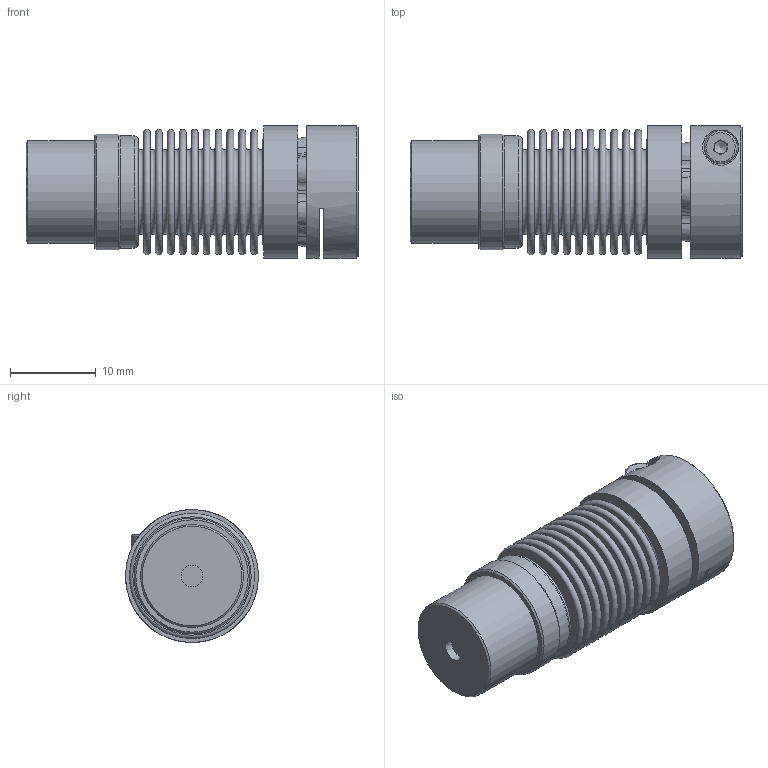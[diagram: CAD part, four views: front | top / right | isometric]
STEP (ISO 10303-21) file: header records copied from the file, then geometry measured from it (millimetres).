
FILE_DESCRIPTION( ( 'KBE1/14 - N7H8 - N14H7 - 98 Sh' ), '1' );
FILE_NAME( 'K:/Konstruktion/Fertigungszeichnungen/Metallbalgkupplung/KB3P/5-10/KB3P-5-31.stp', '14.12.2015', ( 'KBK-Antriebstechnik' ), ( 'KBK-Antriebstechnik' ), 'PSStep 16.0.42', 'Solid Edge St6', ' ' );
FILE_SCHEMA( ( 'AUTOMOTIVE_DESIGN { 1 0 10303 214 1 1 1 1 }' ) );
Length unit declared in the file: millimetre
Products named in the file (7): Assem1; Socket Head Cap Screw_DIN_DIN 912 M2 x 8 --- 8N_5; SN10; Stecknabe KB2P-10; Balgaufnahme KB2P-10_für Step; BL5_Standard_0; ISO EN DIN 4762 M3x12
Assembly tree (6 placements, depth 2):
  Assem1
    Socket Head Cap Screw_DIN_DIN 912 M2 x 8 --- 8N_5
    SN10
    Stecknabe KB2P-10
    Balgaufnahme KB2P-10_für Step
    BL5_Standard_0
    ISO EN DIN 4762 M3x12
Bounding box: 38.7 x 15.5 x 15.5 mm (x, y, z)
Volume: 3725.2 mm3; surface area: 7708.7 mm2
Topology: 6 solids, 6 shells, 221 faces, 443 edges, 286 vertices
Faces by surface type: plane 89, cone 59, torus 51, cylinder 22
Full cylindrical faces by diameter (mm): 1.567 x1, 2 x1, 2.2 x1, 2.5 x1, 2.98 x1, 3 x3, 3.8 x1, 5 x1, 12 x1, 12.9 x3, 13.1 x2, 13.5 x1, 15.5 x2
Entity records: 7459 total; most frequent: CARTESIAN_POINT 1050, DIRECTION 1035, ORIENTED_EDGE 710, AXIS2_PLACEMENT_3D 474, EDGE_LOOP 363, EDGE_CURVE 355, VERTEX_POINT 297, FACE_OUTER_BOUND 291
